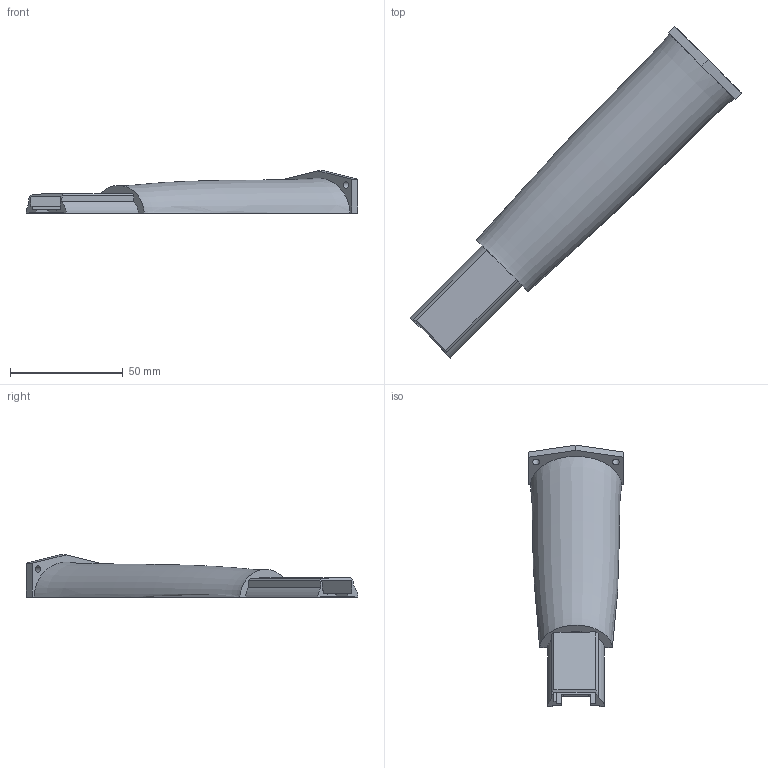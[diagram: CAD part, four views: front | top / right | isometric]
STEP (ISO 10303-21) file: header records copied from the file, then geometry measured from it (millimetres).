
FILE_DESCRIPTION(/* description */ ('STEP AP242 Edition 2','CAx-IF Rec.Pracs.---Representation and Presentation of Product Manufacturing Information (PMI)---4.0---2014-10-13','CAx-IF Rec.Pracs.---3D Tessellated Geometry---0.4---2014-09-14','2;1','CAx-IF Rec.Pracs.---User Defined Attributes---1.5---2016-08-15'),/* implementation_level */ '2;1');
FILE_NAME(/* name */ 'Part Studio 2 - Handle half part 2',/* time_stamp */ '2026-02-06T19:17:59Z',/* author */ (''),/* organization */ (''),/* preprocessor_version */ 'ST-DEVELOPER v20',/* originating_system */ 'ONSHAPE BY PTC INC, 1.210',/* authorisation */ ' ');
FILE_SCHEMA (('AP242_MANAGED_MODEL_BASED_3D_ENGINEERING_MIM_LF { 1 0 10303 442 3 1 4 }'));
Length unit declared in the file: metre
Products named in the file (1): Handle half part 2
Bounding box: 146.92 x 146.92 x 18.75 mm (x, y, z)
Volume: 16716.2 mm3; surface area: 19715.5 mm2
Topology: 1 solids, 1 shells, 51 faces, 152 edges, 102 vertices
Faces by surface type: plane 37, bspline 9, cylinder 5
Full cylindrical faces by diameter (mm): 3 x2
Entity records: 7004 total; most frequent: CARTESIAN_POINT 5674, ORIENTED_EDGE 300, DIRECTION 220, EDGE_CURVE 150, LINE 110, VECTOR 110, VERTEX_POINT 102, EDGE_LOOP 58
